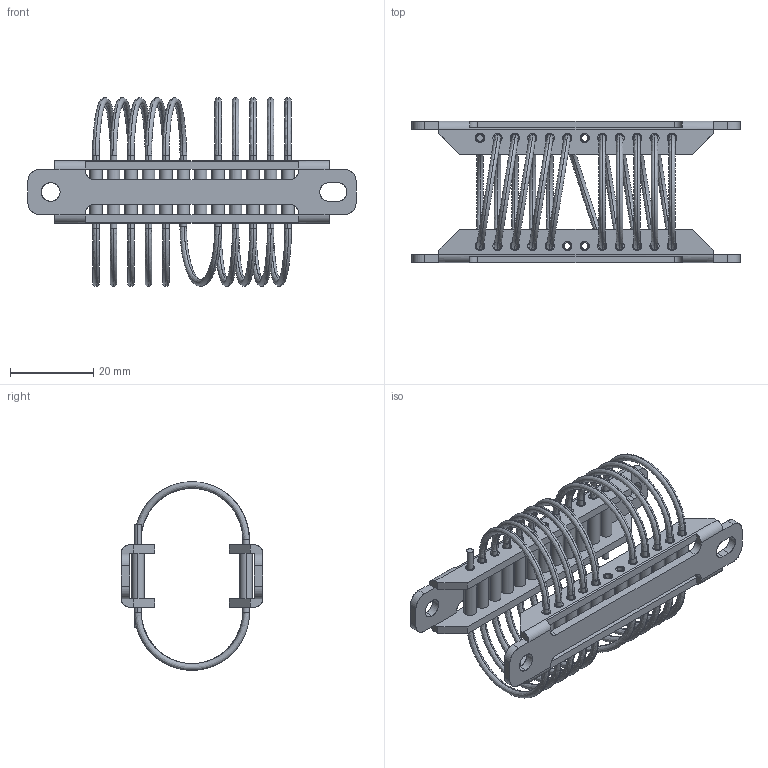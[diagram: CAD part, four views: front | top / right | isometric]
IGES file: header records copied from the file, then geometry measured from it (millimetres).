
Start section: SolidWorks IGES file using analytic representation for surfaces
Bounding box: 79 x 34 x 45.39 mm (x, y, z)
Surface area: 15860.1 mm2 (no closed solid volume)
Topology: 0 solids, 0 shells, 300 faces, 7346 edges, 7346 vertices
Faces by surface type: bspline 158, revolution 142
